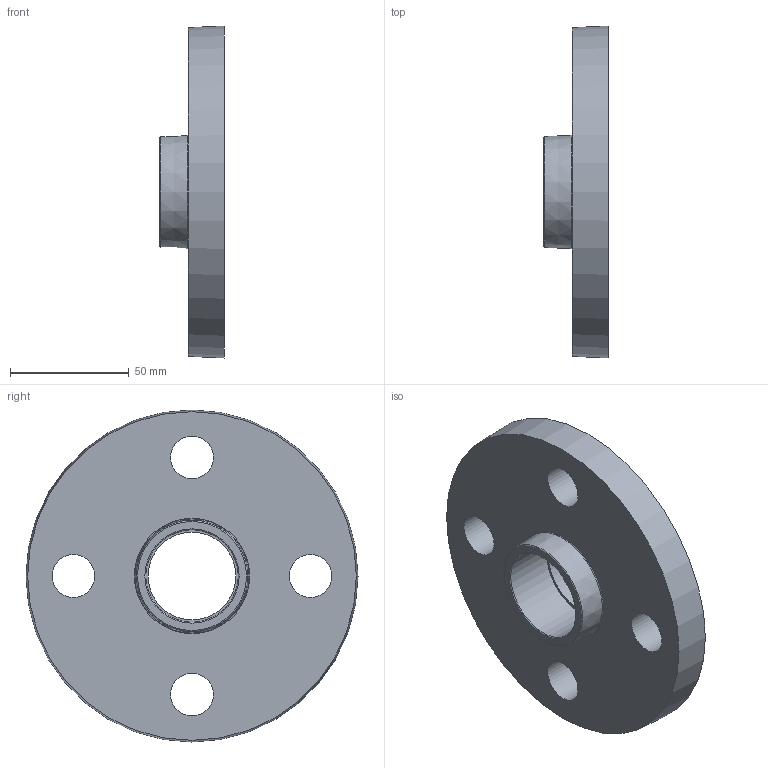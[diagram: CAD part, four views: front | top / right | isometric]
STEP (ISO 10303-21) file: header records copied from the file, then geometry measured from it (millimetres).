
FILE_DESCRIPTION(/* description */ ('PLASSON THR. FIXED FLANGE PVC 1.1/4"'),/* implementation_level */ '2;1');
FILE_NAME(/* name */ 'C:\Dropbox\KIMPROJECTS-Inventor\99-16-3568-Processing\PVC Catalog 2017\059201\059201013.ipt.stp',/* time_stamp */ '2017-12-07T16:07:27+02:00',/* author */ ('KIM'),/* organization */ (''),/* preprocessor_version */ 'ST-DEVELOPER v15.6',/* originating_system */ 'Autodesk Inventor 2015',/* authorisation */ '');
FILE_SCHEMA (('AUTOMOTIVE_DESIGN { 1 0 10303 214 3 1 1 }'));
Length unit declared in the file: millimetre
Products named in the file (1): 059201013
Bounding box: 27 x 140 x 140 mm (x, y, z)
Volume: 202746.4 mm3; surface area: 41375.4 mm2
Topology: 1 solids, 1 shells, 28 faces, 50 edges, 32 vertices
Faces by surface type: cylinder 12, plane 10, torus 4, cone 2
Full cylindrical faces by diameter (mm): 18 x4, 37.004 x1, 38.952 x1, 39.183 x1, 40.583 x1, 41.983 x1, 43.383 x1, 44.783 x1, 46.183 x1
Entity records: 648 total; most frequent: DIRECTION 122, CARTESIAN_POINT 93, EDGE_LOOP 64, ORIENTED_EDGE 64, AXIS2_PLACEMENT_3D 61, FACE_BOUND 36, CIRCLE 32, VERTEX_POINT 32
